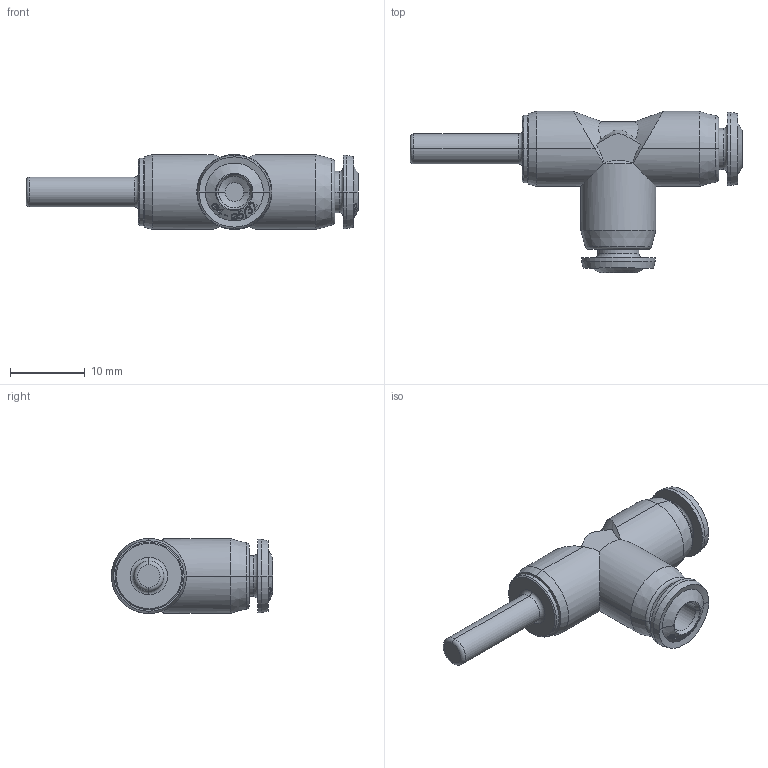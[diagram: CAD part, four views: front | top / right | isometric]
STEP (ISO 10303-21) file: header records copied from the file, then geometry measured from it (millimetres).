
FILE_DESCRIPTION (( 'STEP AP214' ), '1' );
FILE_NAME ('5523500002A.STEP', '2025-09-05T12:35:06', ( '' ), ( '' ), 'SwSTEP 2.0', 'SolidWorks 2020', '' );
FILE_SCHEMA (( 'AUTOMOTIVE_DESIGN' ));
Length unit declared in the file: millimetre
Products named in the file (1): 5523500002A
Bounding box: 44.3 x 21.5 x 10 mm (x, y, z)
Volume: 2655 mm3; surface area: 2114.1 mm2
Topology: 1 solids, 3 shells, 332 faces, 843 edges, 551 vertices
Faces by surface type: bspline 211, cone 60, cylinder 28, plane 21, torus 12
Entity records: 22055 total; most frequent: CARTESIAN_POINT 12320, ORIENTED_EDGE 1686, EDGE_CURVE 843, B_SPLINE_CURVE_WITH_KNOTS 670, VERTEX_POINT 551, DIRECTION 509, EDGE_LOOP 366, FACE_OUTER_BOUND 332
